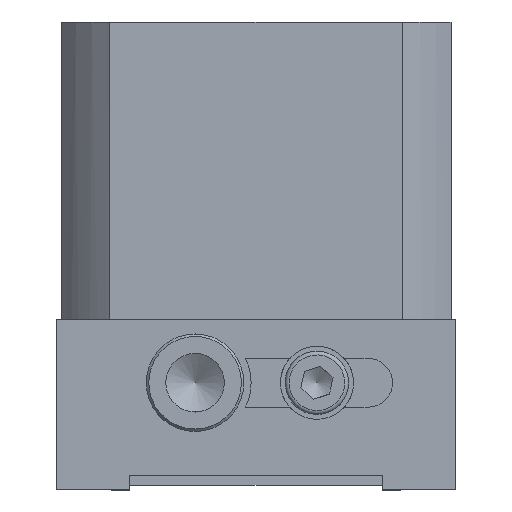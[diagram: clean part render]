
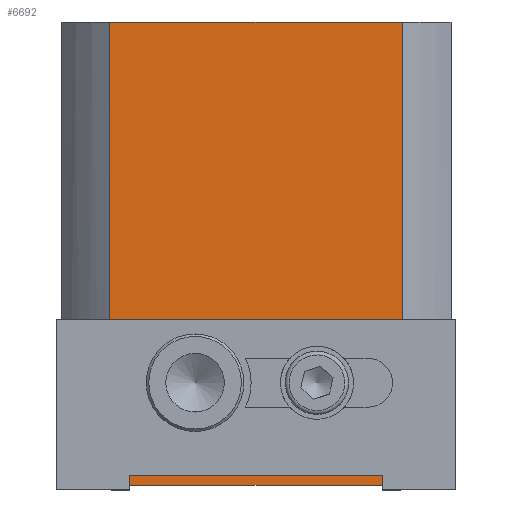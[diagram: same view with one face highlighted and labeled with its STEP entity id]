
A CAD part, left-side view. The second image highlights one B-rep face of the part: STEP entity #6692.
In plain terms, the highlighted planar face has unit normal (-1, 0, 0).
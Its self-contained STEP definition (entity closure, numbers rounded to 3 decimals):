
#6631=CARTESIAN_POINT('',(10.,80.0,50.0));
#6632=DIRECTION('',(-1.0,0.0,0.0));
#6633=DIRECTION('',(0.0,0.0,1.0));
#6634=AXIS2_PLACEMENT_3D('',#6631,#6632,#6633);
#6635=PLANE('',#6634);
#6636=CARTESIAN_POINT('',(10.,20.,50.0));
#6637=VERTEX_POINT('',#6636);
#6638=CARTESIAN_POINT('',(10.,20.,-45.0));
#6639=VERTEX_POINT('',#6638);
#6640=CARTESIAN_POINT('',(10.,20.,50.0));
#6641=DIRECTION('',(0.0,0.0,-1.0));
#6642=VECTOR('',#6641,95.0);
#6643=LINE('',#6640,#6642);
#6644=EDGE_CURVE('',#6637,#6639,#6643,.T.);
#6645=ORIENTED_EDGE('',*,*,#6644,.F.);
#6646=CARTESIAN_POINT('',(10.,80.0,50.0));
#6647=VERTEX_POINT('',#6646);
#6648=CARTESIAN_POINT('',(10.0,80.,50.0));
#6649=DIRECTION('',(0.0,-1.0,0.0));
#6650=VECTOR('',#6649,60.);
#6651=LINE('',#6648,#6650);
#6652=EDGE_CURVE('',#6647,#6637,#6651,.T.);
#6653=ORIENTED_EDGE('',*,*,#6652,.F.);
#6654=CARTESIAN_POINT('',(10.,80.,-45.0));
#6655=VERTEX_POINT('',#6654);
#6656=CARTESIAN_POINT('',(10.,80.0,50.0));
#6657=DIRECTION('',(0.0,0.0,-1.0));
#6658=VECTOR('',#6657,95.0);
#6659=LINE('',#6656,#6658);
#6660=EDGE_CURVE('',#6647,#6655,#6659,.T.);
#6661=ORIENTED_EDGE('',*,*,#6660,.T.);
#6662=CARTESIAN_POINT('',(10.,80.,-45.0));
#6663=DIRECTION('',(0.0,-1.0,0.0));
#6664=VECTOR('',#6663,60.);
#6665=LINE('',#6662,#6664);
#6666=EDGE_CURVE('',#6655,#6639,#6665,.T.);
#6667=ORIENTED_EDGE('',*,*,#6666,.T.);
#6668=EDGE_LOOP('',(#6645,#6653,#6661,#6667));
#6669=FACE_OUTER_BOUND('',#6668,.T.);
#6670=CARTESIAN_POINT('',(10.,62.5,-14.));
#6671=VERTEX_POINT('',#6670);
#6672=CARTESIAN_POINT('',(10.,62.5,-24.));
#6673=DIRECTION('',(-1.0,0.0,0.0));
#6674=DIRECTION('',(0.0,1.0,0.0));
#6675=AXIS2_PLACEMENT_3D('',#6672,#6673,#6674);
#6676=CIRCLE('',#6675,10.0);
#6677=EDGE_CURVE('',#6671,#6671,#6676,.T.);
#6678=ORIENTED_EDGE('',*,*,#6677,.F.);
#6679=EDGE_LOOP('',(#6678));
#6680=FACE_BOUND('',#6679,.T.);
#6681=CARTESIAN_POINT('',(10.,37.5,-14.));
#6682=VERTEX_POINT('',#6681);
#6683=CARTESIAN_POINT('',(10.,37.5,-24.));
#6684=DIRECTION('',(-1.0,0.0,0.0));
#6685=DIRECTION('',(0.0,-1.0,0.0));
#6686=AXIS2_PLACEMENT_3D('',#6683,#6684,#6685);
#6687=CIRCLE('',#6686,10.0);
#6688=EDGE_CURVE('',#6682,#6682,#6687,.T.);
#6689=ORIENTED_EDGE('',*,*,#6688,.F.);
#6690=EDGE_LOOP('',(#6689));
#6691=FACE_BOUND('',#6690,.T.);
#6692=ADVANCED_FACE('',(#6669,#6680,#6691),#6635,.T.);
